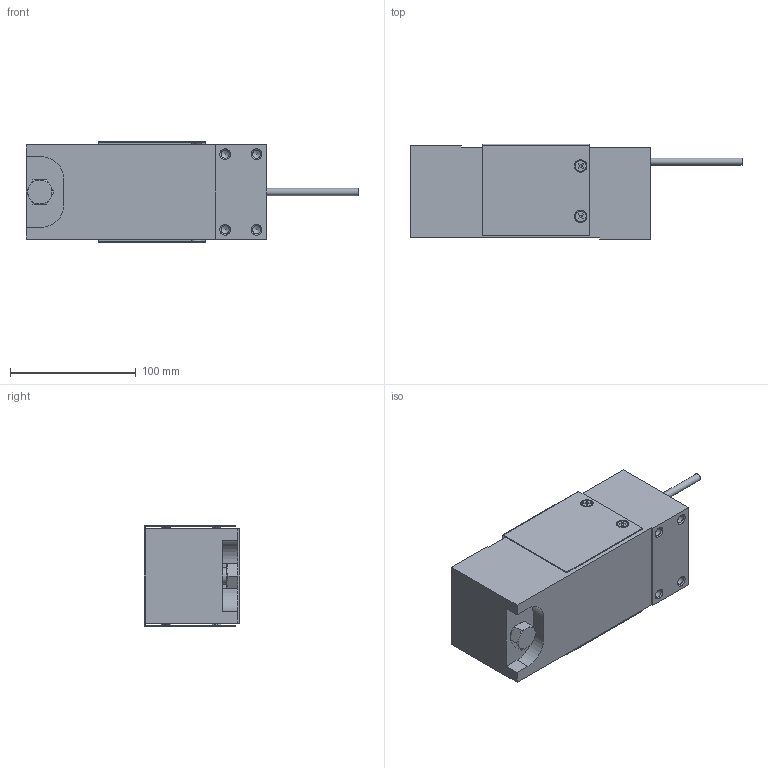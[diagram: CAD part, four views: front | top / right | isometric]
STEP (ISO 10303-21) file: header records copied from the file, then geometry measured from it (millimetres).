
FILE_DESCRIPTION(/* description */ (''),/* implementation_level */ '2;1');
FILE_NAME(/* name */ 'I:/New Datasheets/STEP Models/Pending models/OBUH v1.step',/* time_stamp */ '2019-06-25T11:56:45+01:00',/* author */ (''),/* organization */ (''),/* preprocessor_version */ 'ST-DEVELOPER v18',/* originating_system */ 'Autodesk Translation Framework v8.2.0.1029',/* authorisation */ '');
FILE_SCHEMA (('AUTOMOTIVE_DESIGN { 1 0 10303 214 3 1 1 }'));
Length unit declared in the file: millimetre
Products named in the file (1): OBUH
Bounding box: 263.5 x 75.8 x 80.4 mm (x, y, z)
Volume: 1027005.5 mm3; surface area: 118431.4 mm2
Topology: 2 solids, 8 shells, 259 faces, 703 edges, 481 vertices
Faces by surface type: plane 107, cylinder 83, cone 58, torus 11
Full cylindrical faces by diameter (mm): 3.454 x4, 4.17 x4, 5.7 x6, 6.528 x8, 7 x2, 10 x1, 11.509 x1, 11.51 x1, 12.3 x1, 12.34 x1, 12.7 x1, 13.65 x2, 19 x1
Entity records: 8329 total; most frequent: DIRECTION 1527, CARTESIAN_POINT 1480, ORIENTED_EDGE 1382, EDGE_CURVE 691, AXIS2_PLACEMENT_3D 600, VERTEX_POINT 481, CIRCLE 340, LINE 327
